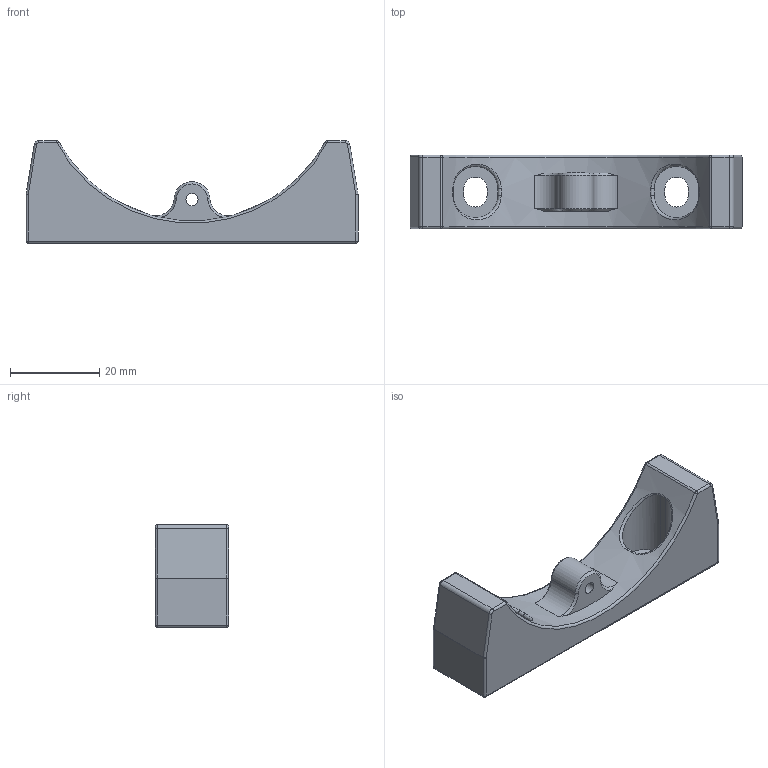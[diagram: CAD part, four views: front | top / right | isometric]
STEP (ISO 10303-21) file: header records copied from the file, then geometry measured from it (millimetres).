
FILE_DESCRIPTION((''),'2;1');
FILE_NAME('RUBY_FRJ_1','2025-03-19T14:34:49',('程川'),(''),'CREO PARAMETRIC BY PTC INC, 2021023','CREO PARAMETRIC BY PTC INC, 2021023','');
FILE_SCHEMA(('CONFIG_CONTROL_DESIGN','SHAPE_APPEARANCE_LAYERS_GROUPS'));
Length unit declared in the file: millimetre
Products named in the file (1): RUBY_FRJ_1
Bounding box: 74.3 x 16.5 x 23 mm (x, y, z)
Volume: 13476.4 mm3; surface area: 6091.1 mm2
Topology: 1 solids, 2 shells, 92 faces, 204 edges, 118 vertices
Faces by surface type: cylinder 42, plane 22, sphere 12, bspline 6, cone 6, torus 4
Entity records: 3432 total; most frequent: CARTESIAN_POINT 1161, DIRECTION 466, ORIENTED_EDGE 404, EDGE_CURVE 204, AXIS2_PLACEMENT_3D 187, VERTEX_POINT 118, EDGE_LOOP 102, CIRCLE 100
